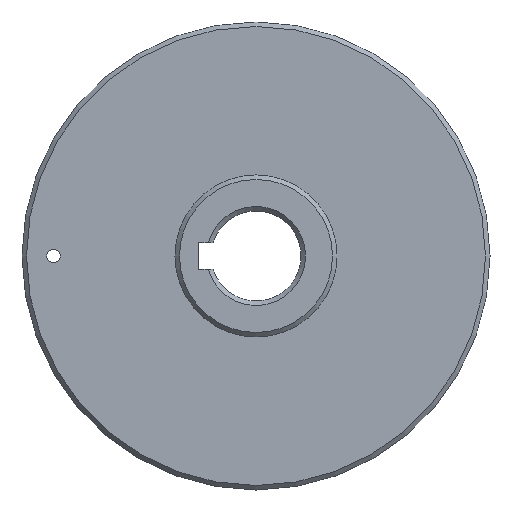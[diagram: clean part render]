
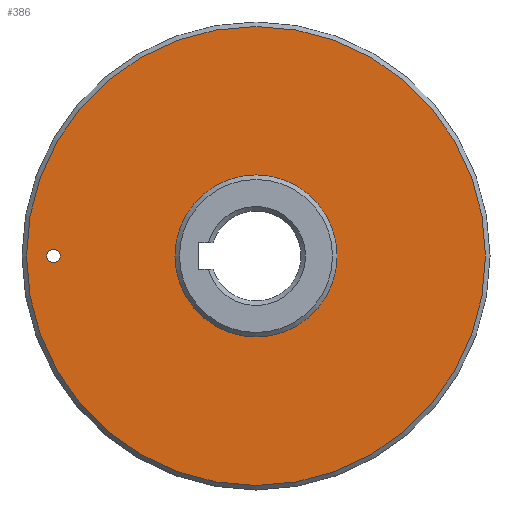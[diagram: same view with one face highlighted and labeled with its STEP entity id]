
A CAD part, front view. The second image highlights one B-rep face of the part: STEP entity #386.
In plain terms, the highlighted planar face has unit normal (0, -1, 0).
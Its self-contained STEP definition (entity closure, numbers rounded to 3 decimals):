
#21=FACE_BOUND('',#132,.T.);
#22=FACE_BOUND('',#133,.T.);
#88=PLANE('',#444);
#106=FACE_OUTER_BOUND('',#131,.T.);
#131=EDGE_LOOP('',(#300));
#132=EDGE_LOOP('',(#301));
#133=EDGE_LOOP('',(#302));
#158=CIRCLE('',#436,18.);
#161=CIRCLE('',#440,51.);
#164=CIRCLE('',#445,1.5);
#188=VERTEX_POINT('',#625);
#191=VERTEX_POINT('',#633);
#194=VERTEX_POINT('',#643);
#225=EDGE_CURVE('',#188,#188,#158,.T.);
#230=EDGE_CURVE('',#191,#191,#161,.T.);
#234=EDGE_CURVE('',#194,#194,#164,.T.);
#300=ORIENTED_EDGE('',*,*,#230,.F.);
#301=ORIENTED_EDGE('',*,*,#225,.T.);
#302=ORIENTED_EDGE('',*,*,#234,.T.);
#386=ADVANCED_FACE('',(#106,#21,#22),#88,.T.);
#436=AXIS2_PLACEMENT_3D('',#626,#499,#500);
#440=AXIS2_PLACEMENT_3D('',#635,#509,#510);
#444=AXIS2_PLACEMENT_3D('',#642,#518,#519);
#445=AXIS2_PLACEMENT_3D('',#644,#520,#521);
#499=DIRECTION('center_axis',(0.,1.,0.));
#500=DIRECTION('ref_axis',(1.,0.,0.));
#509=DIRECTION('center_axis',(0.,1.,0.));
#510=DIRECTION('ref_axis',(-1.,0.,0.));
#518=DIRECTION('center_axis',(0.,-1.,0.));
#519=DIRECTION('ref_axis',(0.,0.,-1.));
#520=DIRECTION('center_axis',(0.,1.,0.));
#521=DIRECTION('ref_axis',(1.,0.,0.));
#625=CARTESIAN_POINT('',(-18.,6.,0.));
#626=CARTESIAN_POINT('Origin',(0.,6.,0.));
#633=CARTESIAN_POINT('',(51.,6.,0.));
#635=CARTESIAN_POINT('Origin',(0.,6.,0.));
#642=CARTESIAN_POINT('Origin',(52.,6.,0.));
#643=CARTESIAN_POINT('',(-46.5,6.,0.));
#644=CARTESIAN_POINT('Origin',(-45.,6.,0.));
